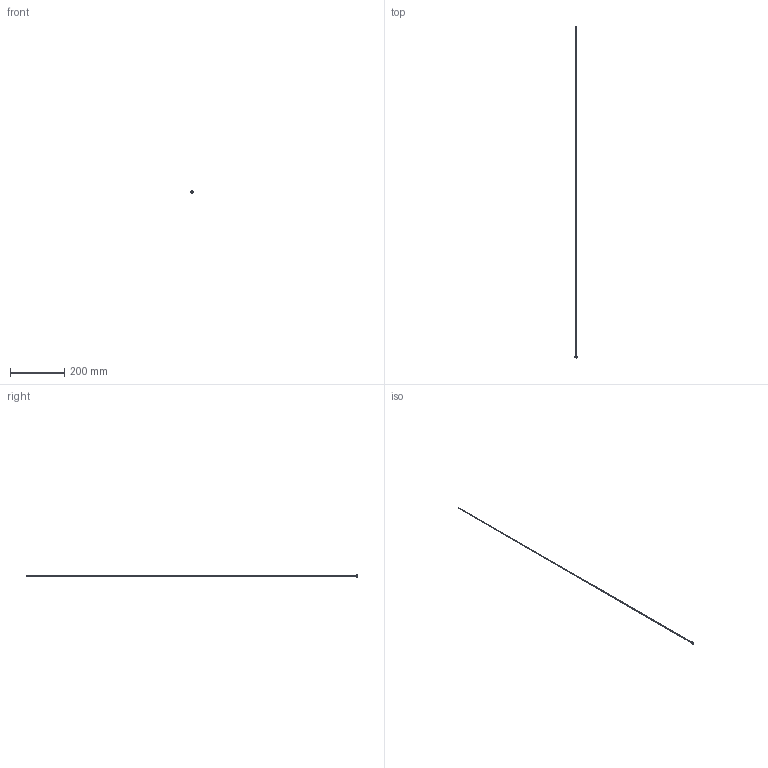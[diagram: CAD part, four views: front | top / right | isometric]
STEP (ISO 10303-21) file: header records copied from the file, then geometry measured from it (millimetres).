
FILE_DESCRIPTION(/* description */ (''),/* implementation_level */ '2;1');
FILE_NAME(/* name */ 'C:/Users/drich/Desktop/PT18-125-48 v1.step',/* time_stamp */ '2019-12-27T15:42:45-06:00',/* author */ (''),/* organization */ (''),/* preprocessor_version */ 'ST-DEVELOPER v18',/* originating_system */ 'Autodesk Translation Framework v8.12.0.6',/* authorisation */ '');
FILE_SCHEMA (('AUTOMOTIVE_DESIGN { 1 0 10303 214 3 1 1 }'));
Length unit declared in the file: inch
Products named in the file (1): PT18-125-48
Bounding box: 9.62 x 1219.2 x 9.62 mm (x, y, z)
Volume: 2533.9 mm3; surface area: 22963.1 mm2
Topology: 1 solids, 1 shells, 19 faces, 48 edges, 34 vertices
Faces by surface type: plane 11, cylinder 4, torus 2, cone 2
Full cylindrical faces by diameter (mm): 2.769 x1, 3.15 x1, 5.156 x1, 9.621 x1
Entity records: 633 total; most frequent: DIRECTION 112, CARTESIAN_POINT 102, ORIENTED_EDGE 96, EDGE_CURVE 48, AXIS2_PLACEMENT_3D 44, VERTEX_POINT 34, CIRCLE 24, EDGE_LOOP 24
